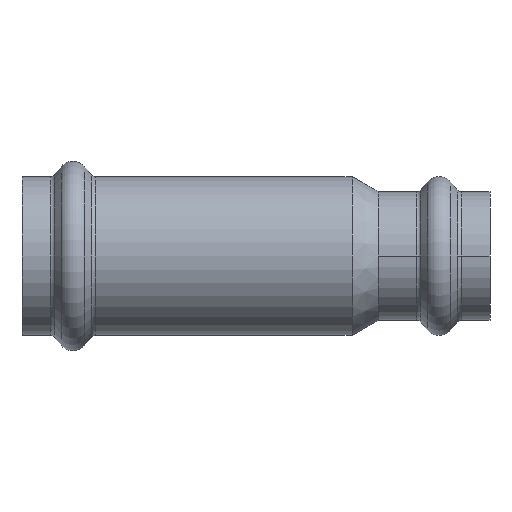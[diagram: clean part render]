
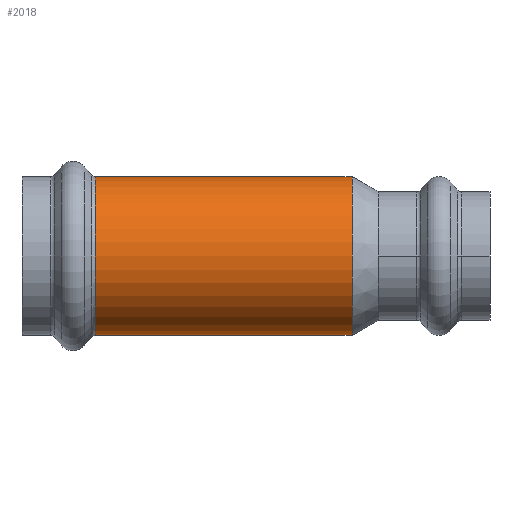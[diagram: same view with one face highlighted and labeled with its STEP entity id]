
A CAD part, front view. The second image highlights one B-rep face of the part: STEP entity #2018.
In plain terms, the highlighted cylindrical face has radius 15.6 mm (diameter 31.2 mm), a partial arc.
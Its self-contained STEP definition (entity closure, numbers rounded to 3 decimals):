
#287 = CARTESIAN_POINT ( 'NONE',  ( -30.606, 0., 0. ) ) ;
#301 = EDGE_CURVE ( 'NONE', #3408, #2440, #1281, .T. ) ;
#487 = CARTESIAN_POINT ( 'NONE',  ( 19.876, 0., -15.6 ) ) ;
#506 = EDGE_CURVE ( 'NONE', #2707, #2440, #1596, .T. ) ;
#722 = EDGE_CURVE ( 'NONE', #4301, #2707, #1196, .T. ) ;
#731 = CYLINDRICAL_SURFACE ( 'NONE', #4099, 15.6 ) ;
#911 = ORIENTED_EDGE ( 'NONE', *, *, #722, .F. ) ;
#1064 = CARTESIAN_POINT ( 'NONE',  ( -58.611, 0., -15.6 ) ) ;
#1071 = DIRECTION ( 'NONE',  ( -1., 0., 0. ) ) ;
#1079 = CARTESIAN_POINT ( 'NONE',  ( -58.611, 0., 0. ) ) ;
#1196 = CIRCLE ( 'NONE', #3263, 15.6 ) ;
#1255 = AXIS2_PLACEMENT_3D ( 'NONE', #287, #2729, #4936 ) ;
#1281 = CIRCLE ( 'NONE', #1255, 15.6 ) ;
#1485 = CARTESIAN_POINT ( 'NONE',  ( -58.611, 0., 15.6 ) ) ;
#1596 = LINE ( 'NONE', #1064, #3627 ) ;
#1887 = DIRECTION ( 'NONE',  ( -1., 0., 0. ) ) ;
#2018 = ADVANCED_FACE ( 'NONE', ( #2995 ), #731, .T. ) ;
#2141 = CARTESIAN_POINT ( 'NONE',  ( -30.606, 0., -15.6 ) ) ;
#2314 = EDGE_LOOP ( 'NONE', ( #4894, #911, #4278, #3568 ) ) ;
#2440 = VERTEX_POINT ( 'NONE', #2141 ) ;
#2683 = DIRECTION ( 'NONE',  ( -1., 0., 0. ) ) ;
#2707 = VERTEX_POINT ( 'NONE', #487 ) ;
#2729 = DIRECTION ( 'NONE',  ( 1., 0., 0. ) ) ;
#2995 = FACE_OUTER_BOUND ( 'NONE', #2314, .T. ) ;
#3067 = CARTESIAN_POINT ( 'NONE',  ( 19.876, 0., 0. ) ) ;
#3081 = DIRECTION ( 'NONE',  ( 1., 0., 0. ) ) ;
#3097 = DIRECTION ( 'NONE',  ( 0., 0., 1. ) ) ;
#3263 = AXIS2_PLACEMENT_3D ( 'NONE', #3067, #3081, #3097 ) ;
#3408 = VERTEX_POINT ( 'NONE', #3892 ) ;
#3568 = ORIENTED_EDGE ( 'NONE', *, *, #301, .T. ) ;
#3580 = EDGE_CURVE ( 'NONE', #4301, #3408, #4822, .T. ) ;
#3627 = VECTOR ( 'NONE', #1071, 1000. ) ;
#3699 = VECTOR ( 'NONE', #2683, 1000. ) ;
#3892 = CARTESIAN_POINT ( 'NONE',  ( -30.606, 0., 15.6 ) ) ;
#3957 = CARTESIAN_POINT ( 'NONE',  ( 19.876, 0., 15.6 ) ) ;
#4099 = AXIS2_PLACEMENT_3D ( 'NONE', #1079, #1887, #4711 ) ;
#4278 = ORIENTED_EDGE ( 'NONE', *, *, #3580, .T. ) ;
#4301 = VERTEX_POINT ( 'NONE', #3957 ) ;
#4711 = DIRECTION ( 'NONE',  ( 0., 0., 1. ) ) ;
#4822 = LINE ( 'NONE', #1485, #3699 ) ;
#4894 = ORIENTED_EDGE ( 'NONE', *, *, #506, .F. ) ;
#4936 = DIRECTION ( 'NONE',  ( 0., 0., -1. ) ) ;
